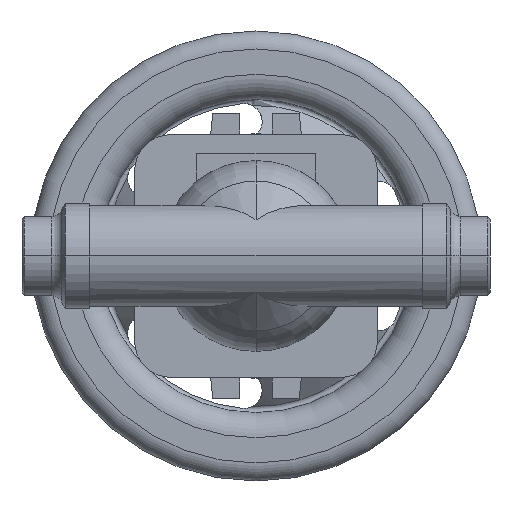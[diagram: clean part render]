
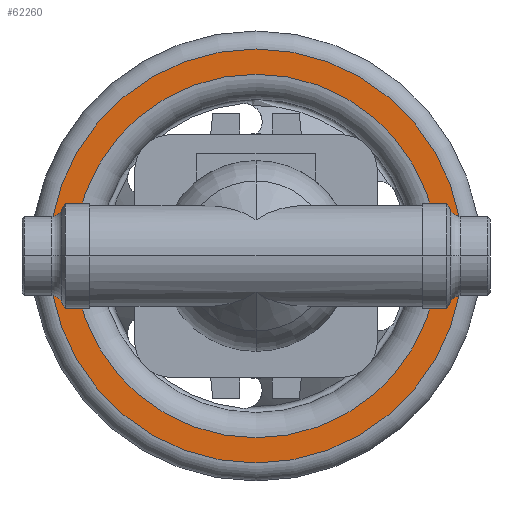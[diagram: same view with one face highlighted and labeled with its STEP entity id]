
A CAD part, front view. The second image highlights one B-rep face of the part: STEP entity #62260.
In plain terms, the highlighted planar face has unit normal (0, -1, 0).
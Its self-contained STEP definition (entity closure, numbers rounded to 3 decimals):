
#61600=CARTESIAN_POINT('',(122.5,212.3,0.));
#61610=VERTEX_POINT('',#61600);
#61710=CARTESIAN_POINT('',(7.5,212.3,0.));
#61720=VERTEX_POINT('',#61710);
#61750=CARTESIAN_POINT('',(65.,212.3,0.));
#61760=DIRECTION('',(0.,1.,0.));
#61770=DIRECTION('',(-1.,0.,0.));
#61780=AXIS2_PLACEMENT_3D('',#61750,#61760,#61770);
#61790=CIRCLE('',#61780,57.5);
#61800=CARTESIAN_POINT('',(65.,212.3,-57.5));
#61810=VERTEX_POINT('',#61800);
#61820=EDGE_CURVE('',#61810,#61720,#61790,.T.);
#61840=EDGE_CURVE('',#61610,#61810,#61790,.T.);
#61960=CARTESIAN_POINT('',(11.,212.3,0.));
#61970=DIRECTION('',(0.,-1.,0.));
#61980=DIRECTION('',(1.,0.,0.));
#61990=AXIS2_PLACEMENT_3D('',#61960,#61970,#61980);
#62000=PLANE('',#61990);
#62010=ORIENTED_EDGE('',*,*,#61820,.F.);
#62020=EDGE_CURVE('',#61720,#61610,#61790,.T.);
#62030=ORIENTED_EDGE('',*,*,#62020,.F.);
#62040=ORIENTED_EDGE('',*,*,#61840,.F.);
#62050=EDGE_LOOP('',(#62040,#62030,#62010));
#62060=FACE_OUTER_BOUND('',#62050,.T.);
#62070=CARTESIAN_POINT('',(65.,212.3,0.));
#62080=DIRECTION('',(0.,1.,0.));
#62090=DIRECTION('',(-1.,0.,0.));
#62100=AXIS2_PLACEMENT_3D('',#62070,#62080,#62090);
#62110=CIRCLE('',#62100,50.5);
#62120=CARTESIAN_POINT('',(14.5,212.3,0.));
#62130=VERTEX_POINT('',#62120);
#62140=CARTESIAN_POINT('',(115.5,212.3,0.));
#62150=VERTEX_POINT('',#62140);
#62160=EDGE_CURVE('',#62130,#62150,#62110,.T.);
#62170=ORIENTED_EDGE('',*,*,#62160,.T.);
#62180=CARTESIAN_POINT('',(65.,212.3,-50.5));
#62190=VERTEX_POINT('',#62180);
#62200=EDGE_CURVE('',#62190,#62130,#62110,.T.);
#62210=ORIENTED_EDGE('',*,*,#62200,.T.);
#62220=EDGE_CURVE('',#62150,#62190,#62110,.T.);
#62230=ORIENTED_EDGE('',*,*,#62220,.T.);
#62240=EDGE_LOOP('',(#62230,#62210,#62170));
#62250=FACE_BOUND('',#62240,.T.);
#62260=ADVANCED_FACE('',(#62060,#62250),#62000,.T.);
